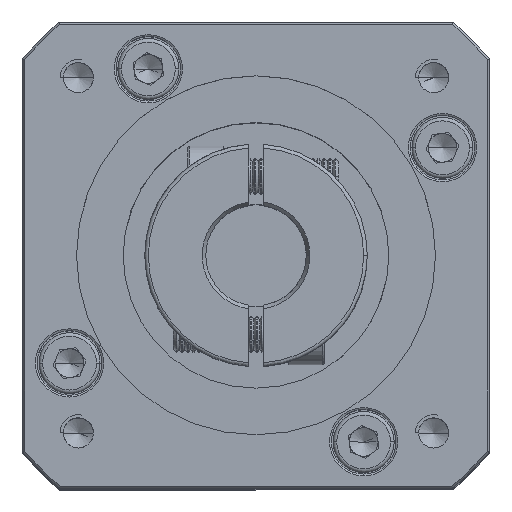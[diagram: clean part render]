
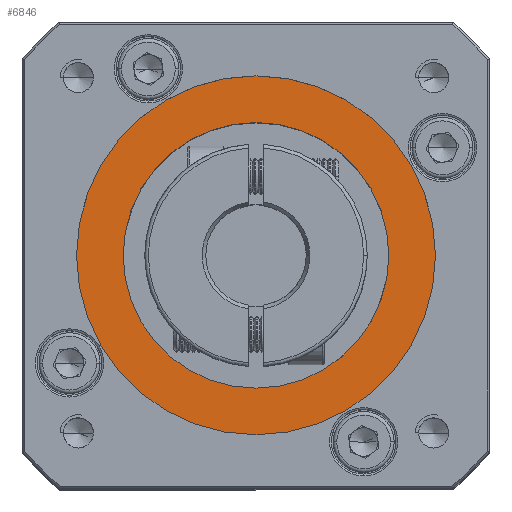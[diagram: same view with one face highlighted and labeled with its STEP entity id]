
A CAD part, top view. The second image highlights one B-rep face of the part: STEP entity #6846.
In plain terms, the highlighted planar face has unit normal (0, 0, 1).
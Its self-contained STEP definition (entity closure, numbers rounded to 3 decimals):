
#126 = ORIENTED_EDGE ( 'NONE', *, *, #89114, .T. ) ;
#2369 = EDGE_LOOP ( 'NONE', ( #99277, #126 ) ) ;
#3119 = FACE_OUTER_BOUND ( 'NONE', #55995, .T. ) ;
#3299 = CARTESIAN_POINT ( 'NONE',  ( 5.43, 11.563, 148.65 ) ) ;
#3345 = CARTESIAN_POINT ( 'NONE',  ( -19.57, 11.563, 148.65 ) ) ;
#4248 = DIRECTION ( 'NONE',  ( 1., 0., 0. ) ) ;
#6846 = ADVANCED_FACE ( 'NONE', ( #3119, #64301 ), #75128, .T. ) ;
#7278 = AXIS2_PLACEMENT_3D ( 'NONE', #87833, #40113, #95813 ) ;
#11356 = DIRECTION ( 'NONE',  ( 1., 0., 0. ) ) ;
#13370 = CARTESIAN_POINT ( 'NONE',  ( 5.43, 11.563, 148.65 ) ) ;
#14022 = CIRCLE ( 'NONE', #7278, 18.5 ) ;
#19674 = DIRECTION ( 'NONE',  ( 0., 0., 1. ) ) ;
#21392 = DIRECTION ( 'NONE',  ( 1., 0., 0. ) ) ;
#25255 = CIRCLE ( 'NONE', #45112, 25. ) ;
#32239 = VERTEX_POINT ( 'NONE', #84659 ) ;
#32771 = EDGE_CURVE ( 'NONE', #32239, #55435, #60559, .T. ) ;
#36233 = VERTEX_POINT ( 'NONE', #77358 ) ;
#40113 = DIRECTION ( 'NONE',  ( 0., 0., -1. ) ) ;
#42301 = AXIS2_PLACEMENT_3D ( 'NONE', #3299, #59171, #11356 ) ;
#44963 = AXIS2_PLACEMENT_3D ( 'NONE', #67444, #19674, #75464 ) ;
#45112 = AXIS2_PLACEMENT_3D ( 'NONE', #13370, #69192, #21392 ) ;
#52028 = DIRECTION ( 'NONE',  ( 0., 0., -1. ) ) ;
#52077 = AXIS2_PLACEMENT_3D ( 'NONE', #99712, #52028, #4248 ) ;
#55435 = VERTEX_POINT ( 'NONE', #3345 ) ;
#55995 = EDGE_LOOP ( 'NONE', ( #60775, #70346 ) ) ;
#56076 = EDGE_CURVE ( 'NONE', #55435, #32239, #25255, .T. ) ;
#58119 = CIRCLE ( 'NONE', #52077, 18.5 ) ;
#59171 = DIRECTION ( 'NONE',  ( 0., 0., 1. ) ) ;
#60559 = CIRCLE ( 'NONE', #42301, 25. ) ;
#60775 = ORIENTED_EDGE ( 'NONE', *, *, #32771, .T. ) ;
#64301 = FACE_BOUND ( 'NONE', #2369, .T. ) ;
#67444 = CARTESIAN_POINT ( 'NONE',  ( 5.43, 11.563, 148.65 ) ) ;
#69192 = DIRECTION ( 'NONE',  ( 0., 0., 1. ) ) ;
#70346 = ORIENTED_EDGE ( 'NONE', *, *, #56076, .T. ) ;
#75128 = PLANE ( 'NONE',  #44963 ) ;
#75464 = DIRECTION ( 'NONE',  ( 1., 0., 0. ) ) ;
#77358 = CARTESIAN_POINT ( 'NONE',  ( 23.93, 11.563, 148.65 ) ) ;
#84659 = CARTESIAN_POINT ( 'NONE',  ( 30.43, 11.563, 148.65 ) ) ;
#87833 = CARTESIAN_POINT ( 'NONE',  ( 5.43, 11.563, 148.65 ) ) ;
#89114 = EDGE_CURVE ( 'NONE', #92483, #36233, #58119, .T. ) ;
#92483 = VERTEX_POINT ( 'NONE', #95109 ) ;
#95109 = CARTESIAN_POINT ( 'NONE',  ( -13.07, 11.563, 148.65 ) ) ;
#95183 = EDGE_CURVE ( 'NONE', #36233, #92483, #14022, .T. ) ;
#95813 = DIRECTION ( 'NONE',  ( 1., 0., 0. ) ) ;
#99277 = ORIENTED_EDGE ( 'NONE', *, *, #95183, .T. ) ;
#99712 = CARTESIAN_POINT ( 'NONE',  ( 5.43, 11.563, 148.65 ) ) ;
